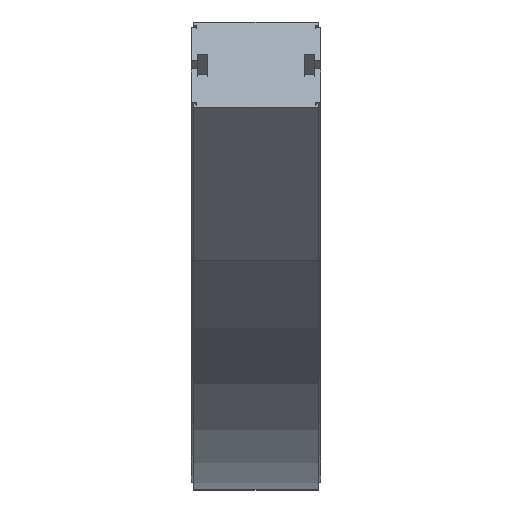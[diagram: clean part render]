
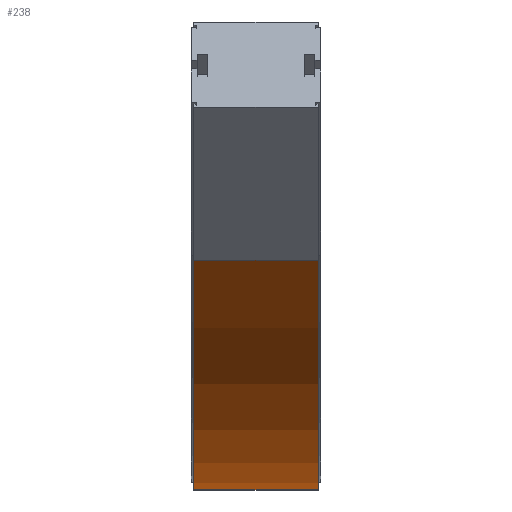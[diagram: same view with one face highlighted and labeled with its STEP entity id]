
A CAD part, top view. The second image highlights one B-rep face of the part: STEP entity #238.
In plain terms, the highlighted cylindrical face has radius 542 mm (diameter 1084 mm), a partial arc.
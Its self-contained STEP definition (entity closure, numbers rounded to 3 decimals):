
#79 = VECTOR ( 'NONE', #2277, 1000. ) ;
#82 = LINE ( 'NONE', #2275, #79 ) ;
#238 = ADVANCED_FACE ( 'NONE', ( #2749 ), #2750, .T. ) ;
#341 = VECTOR ( 'NONE', #1813, 1000. ) ;
#345 = LINE ( 'NONE', #1811, #341 ) ;
#351 = CIRCLE ( 'NONE', #2532, 542. ) ;
#353 = CIRCLE ( 'NONE', #2530, 542. ) ;
#616 = AXIS2_PLACEMENT_3D ( 'NONE', #2644, #2643, #2645 ) ;
#687 = EDGE_CURVE ( 'NONE', #3032, #3007, #82, .T. ) ;
#831 = EDGE_CURVE ( 'NONE', #2951, #3007, #353, .T. ) ;
#835 = EDGE_CURVE ( 'NONE', #2943, #2951, #345, .T. ) ;
#836 = EDGE_CURVE ( 'NONE', #2943, #3032, #351, .T. ) ;
#1191 = ORIENTED_EDGE ( 'NONE', *, *, #835, .F. ) ;
#1192 = ORIENTED_EDGE ( 'NONE', *, *, #836, .T. ) ;
#1193 = ORIENTED_EDGE ( 'NONE', *, *, #687, .T. ) ;
#1194 = ORIENTED_EDGE ( 'NONE', *, *, #831, .F. ) ;
#1804 = CARTESIAN_POINT ( 'NONE',  ( -43.15, 500., 150. ) ) ;
#1805 = DIRECTION ( 'NONE',  ( -1., 0., 0. ) ) ;
#1806 = DIRECTION ( 'NONE',  ( 0., 0., 1. ) ) ;
#1811 = CARTESIAN_POINT ( 'NONE',  ( -43.15, -42., 150. ) ) ;
#1813 = DIRECTION ( 'NONE',  ( -1., 0., 0. ) ) ;
#1816 = CARTESIAN_POINT ( 'NONE',  ( 43.15, 500., 150. ) ) ;
#1817 = DIRECTION ( 'NONE',  ( -1., 0., 0. ) ) ;
#1818 = DIRECTION ( 'NONE',  ( 0., 0., 1. ) ) ;
#2029 = CARTESIAN_POINT ( 'NONE',  ( 43.15, -42., 150. ) ) ;
#2037 = CARTESIAN_POINT ( 'NONE',  ( -43.15, -42., 150. ) ) ;
#2093 = CARTESIAN_POINT ( 'NONE',  ( -43.15, 116.748, 533.252 ) ) ;
#2118 = CARTESIAN_POINT ( 'NONE',  ( 43.15, 116.748, 533.252 ) ) ;
#2275 = CARTESIAN_POINT ( 'NONE',  ( -43.15, 116.748, 533.252 ) ) ;
#2277 = DIRECTION ( 'NONE',  ( -1., 0., 0. ) ) ;
#2530 = AXIS2_PLACEMENT_3D ( 'NONE', #1804, #1805, #1806 ) ;
#2532 = AXIS2_PLACEMENT_3D ( 'NONE', #1816, #1817, #1818 ) ;
#2643 = DIRECTION ( 'NONE',  ( -1., 0., 0. ) ) ;
#2644 = CARTESIAN_POINT ( 'NONE',  ( 0., 500., 150. ) ) ;
#2645 = DIRECTION ( 'NONE',  ( 0., 0., 1. ) ) ;
#2749 = FACE_OUTER_BOUND ( 'NONE', #2887, .T. ) ;
#2750 = CYLINDRICAL_SURFACE ( 'NONE', #616, 542. ) ;
#2887 = EDGE_LOOP ( 'NONE', ( #1191, #1192, #1193, #1194 ) ) ;
#2943 = VERTEX_POINT ( 'NONE', #2029 ) ;
#2951 = VERTEX_POINT ( 'NONE', #2037 ) ;
#3007 = VERTEX_POINT ( 'NONE', #2093 ) ;
#3032 = VERTEX_POINT ( 'NONE', #2118 ) ;
